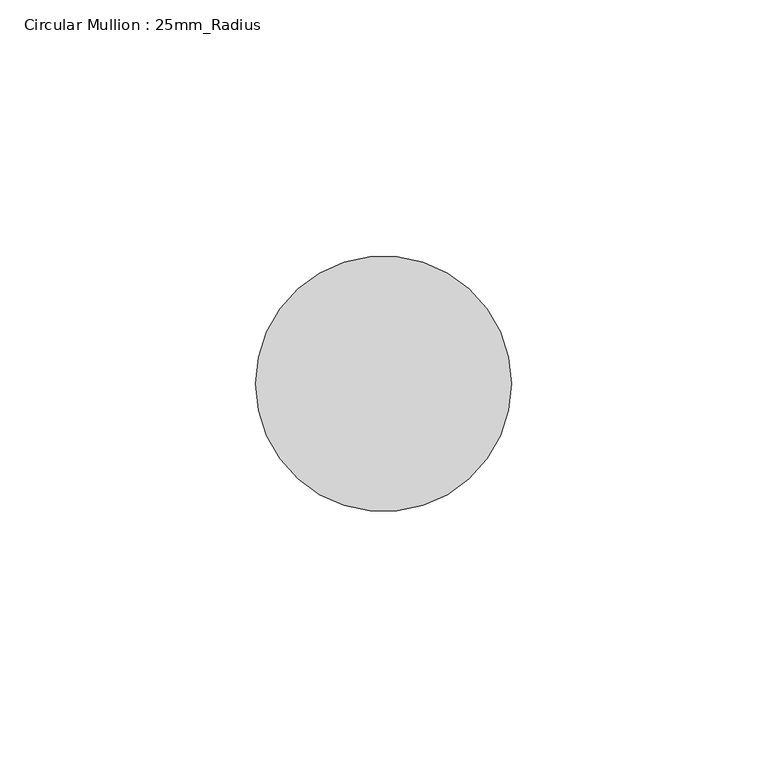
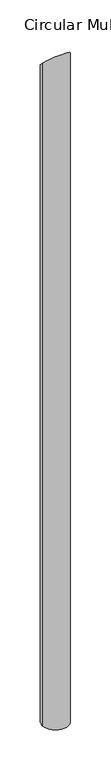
"""IFC4 building model written with IfcOpenShell, lengths in millimetres: member geometry, Circular Mullion : 25mm_Radius."""

from ifc_helpers import new_model, si_unit, frame, origin, place, context, project, spatial, circle_curve, ellipse_curve, source, transform, mapped, element, save
from ifc_brep_helpers import plane_surface, cylinder_surface, advanced_brep


def circular_mullion_25mm_radius_4872dc10(model_context):
    return source(origin(), model_context, "Body", "AdvancedBrep", [
        advanced_brep(
        [(0.0, 0.0, -1346.7743851), (-50.0, 0.0, -1346.7743851), (-50.0, 0.0, 0.0), (0.0, 0.0, 0.0)],
        [
            (0, 1, circle_curve(frame((-25.0, 0.0, -1346.7743851), z_axis=(0.0, 0.0, -1.0), x_axis=(1.0, 0.0, 0.0)), 25.0)),
            (1, 0, circle_curve(frame((-25.0, 0.0, -1346.7743851), z_axis=(0.0, 0.0, -1.0), x_axis=(1.0, 0.0, 0.0)), 25.0)),
            (2, 3, ellipse_curve(frame((-25.0, 0.0, 0.0), z_axis=(0.0, -0.7071067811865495, -0.7071067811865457), x_axis=(0.0, -0.7071067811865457, 0.7071067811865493)), 35.3553391, 25.0)),
            (3, 0),
            (1, 2),
            (3, 2, ellipse_curve(frame((-25.0, 0.0, 0.0), z_axis=(0.0, -0.7071067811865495, -0.7071067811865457), x_axis=(0.0, -0.7071067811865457, 0.7071067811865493)), 35.3553391, 25.0)),
        ],
        [
            plane_surface(frame((0.0, -50.0, -1346.7743851), z_axis=(0.0, 0.0, -1.0), x_axis=(-1.0, 0.0, 0.0))),
            cylinder_surface(frame((-25.0, 0.0, 0.0), z_axis=(0.0, 0.0, 1.0), x_axis=(1.0, 0.0, 0.0)), 25.0),
            plane_surface(frame((-304.8, 0.0, 0.0), z_axis=(0.0, 0.7071067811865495, 0.7071067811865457), x_axis=(0.0, 0.7071067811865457, -0.7071067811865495))),
        ],
        [
            (0, [[1, 2]]),
            (1, [[3, 4, -2, 5]]),
            (1, [[6, -5, -1, -4]]),
            (2, [[-3, -6]]),
        ],
    ),
    ])


if __name__ == "__main__":
    model = new_model("IFC4")
    model_context = context("Model", 3, world=origin())
    ifc_project = project(units=[si_unit("LENGTHUNIT", "METRE", prefix="MILLI")], contexts=[model_context])
    site = spatial("IfcSite", under=ifc_project)
    building = spatial("IfcBuilding", under=site)
    placement = place(None, origin())
    circular_mullion_25mm_radius_shape = circular_mullion_25mm_radius_4872dc10(model_context)
    element("IfcMember", 1, ObjectType="Circular Mullion : 25mm_Radius", at=placement, inside=building, context=model_context, shape_type="MappedRepresentation", body=[
        mapped(circular_mullion_25mm_radius_shape, transform((0.0, 0.0, 0.0), x_axis=(1.0, 0.0, 0.0), y_axis=(0.0, 1.0, 0.0), z_axis=(0.0, 0.0, 1.0))),
    ])
    save(model, "model.ifc")
